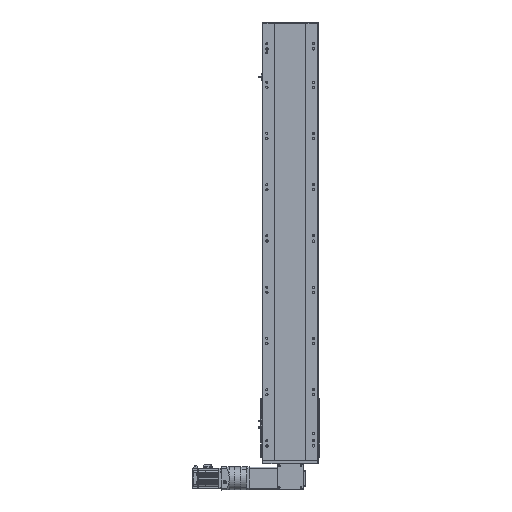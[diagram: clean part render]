
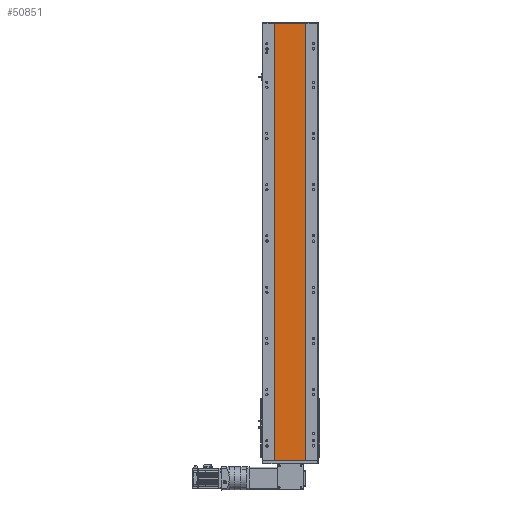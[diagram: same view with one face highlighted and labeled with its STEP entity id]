
A CAD part, front view. The second image highlights one B-rep face of the part: STEP entity #50851.
In plain terms, the highlighted planar face has unit normal (0, -1, 0).
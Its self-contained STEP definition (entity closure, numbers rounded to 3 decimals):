
#692 = LINE ( 'NONE', #48717, #63650 ) ;
#2947 = VERTEX_POINT ( 'NONE', #59368 ) ;
#3394 = CARTESIAN_POINT ( 'NONE',  ( 432.408, 155.016, 1707. ) ) ;
#7731 = DIRECTION ( 'NONE',  ( 1., 0., 0. ) ) ;
#8695 = ORIENTED_EDGE ( 'NONE', *, *, #8750, .T. ) ;
#8750 = EDGE_CURVE ( 'NONE', #31584, #2947, #57280, .T. ) ;
#12972 = EDGE_CURVE ( 'NONE', #56144, #60533, #20605, .T. ) ;
#13931 = VECTOR ( 'NONE', #68611, 1000. ) ;
#14343 = DIRECTION ( 'NONE',  ( 0., 0., -1. ) ) ;
#19094 = EDGE_CURVE ( 'NONE', #31584, #56144, #692, .T. ) ;
#19267 = AXIS2_PLACEMENT_3D ( 'NONE', #66338, #65199, #65583 ) ;
#20244 = EDGE_CURVE ( 'NONE', #2947, #60533, #50668, .T. ) ;
#20605 = LINE ( 'NONE', #31551, #62261 ) ;
#24941 = EDGE_LOOP ( 'NONE', ( #44265, #30081, #66672, #8695 ) ) ;
#30081 = ORIENTED_EDGE ( 'NONE', *, *, #12972, .F. ) ;
#31551 = CARTESIAN_POINT ( 'NONE',  ( 551.58, 155.016, 1707. ) ) ;
#31584 = VERTEX_POINT ( 'NONE', #46907 ) ;
#42586 = PLANE ( 'NONE',  #19267 ) ;
#44265 = ORIENTED_EDGE ( 'NONE', *, *, #20244, .T. ) ;
#44838 = CARTESIAN_POINT ( 'NONE',  ( 0., 155.016, 0. ) ) ;
#46907 = CARTESIAN_POINT ( 'NONE',  ( 432.408, 155.016, 1707. ) ) ;
#48416 = FACE_OUTER_BOUND ( 'NONE', #24941, .T. ) ;
#48717 = CARTESIAN_POINT ( 'NONE',  ( 0., 155.016, 1707. ) ) ;
#50668 = LINE ( 'NONE', #44838, #13931 ) ;
#50851 = ADVANCED_FACE ( 'NONE', ( #48416 ), #42586, .F. ) ;
#52168 = CARTESIAN_POINT ( 'NONE',  ( 551.58, 155.016, 0. ) ) ;
#52884 = VECTOR ( 'NONE', #69354, 1000. ) ;
#56144 = VERTEX_POINT ( 'NONE', #59017 ) ;
#57280 = LINE ( 'NONE', #3394, #52884 ) ;
#59017 = CARTESIAN_POINT ( 'NONE',  ( 551.58, 155.016, 1707. ) ) ;
#59368 = CARTESIAN_POINT ( 'NONE',  ( 432.408, 155.016, 0. ) ) ;
#60533 = VERTEX_POINT ( 'NONE', #52168 ) ;
#62261 = VECTOR ( 'NONE', #14343, 1000. ) ;
#63650 = VECTOR ( 'NONE', #7731, 1000. ) ;
#65199 = DIRECTION ( 'NONE',  ( 0., 1., 0. ) ) ;
#65583 = DIRECTION ( 'NONE',  ( 0., 0., 1. ) ) ;
#66338 = CARTESIAN_POINT ( 'NONE',  ( 0., 155.016, 1707. ) ) ;
#66672 = ORIENTED_EDGE ( 'NONE', *, *, #19094, .F. ) ;
#68611 = DIRECTION ( 'NONE',  ( 1., 0., 0. ) ) ;
#69354 = DIRECTION ( 'NONE',  ( 0., 0., -1. ) ) ;
